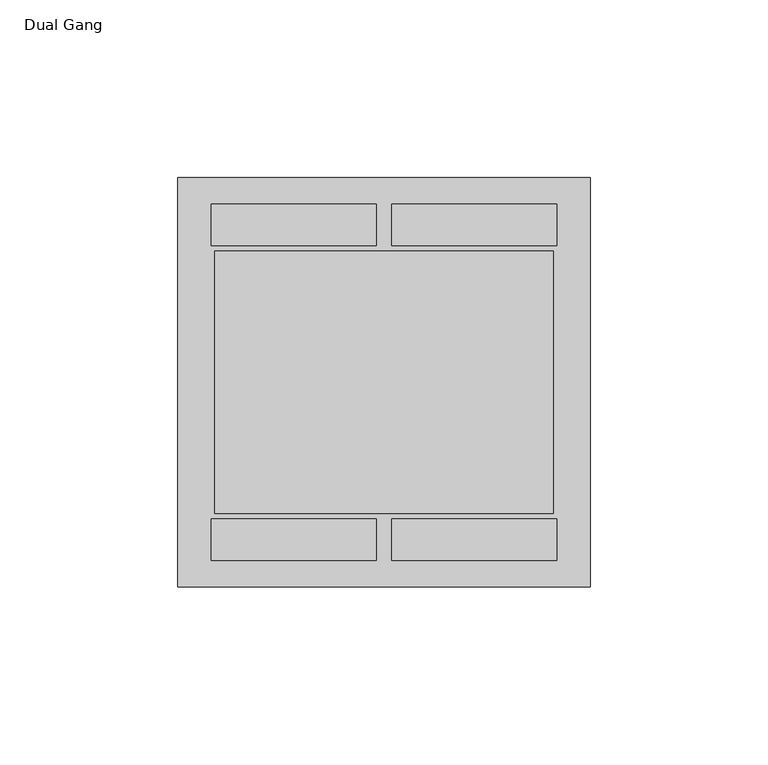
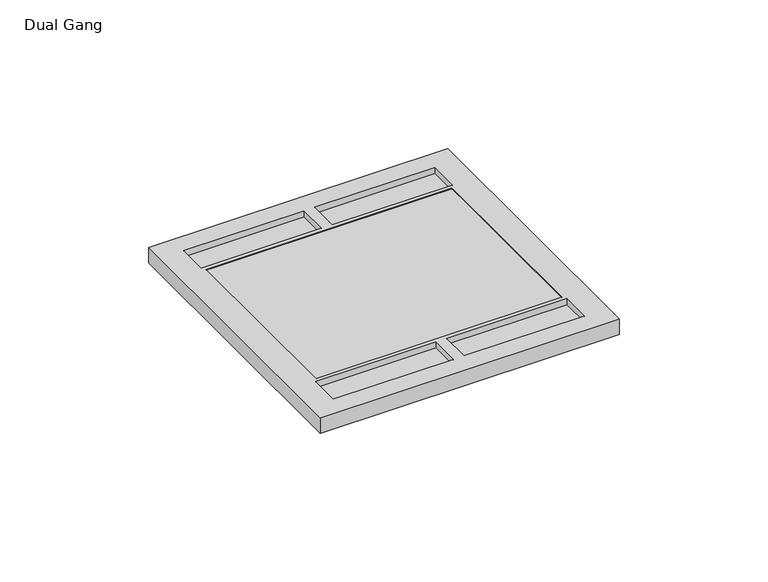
"""IFC4 building model written with IfcOpenShell, lengths in millimetres: electric appliance geometry, Data_Device-Work_Area-Leviton-MOS-Wallplate : Dual Gang."""

from ifc_helpers import new_model, si_unit, origin, origin_with_axes, place, context, project, spatial, polyline, outline, extrude, faceted_brep, source, transform, mapped, element, save


def dual_gang_9d6b230c(model_context):
    return source(origin(), model_context, "Body", "SolidModel", [
        faceted_brep([(-70.6501, 45.0215, 6.35), (-70.6501, 45.0215, 0.0), (24.5999, 45.0215, 0.0), (24.5999, 45.0215, 6.35), (-70.6501, -28.6385, 6.35), (-70.6501, -28.6385, 0.0), (24.5999, -28.6385, 6.35), (24.5999, -28.6385, 0.0), (25.6032, 58.3565, 3.81), (-20.8788, 58.3565, 3.81), (-20.8788, 46.6725, 3.81), (25.6032, 46.6725, 3.81), (-25.1714, 58.3565, 3.81), (-71.6534, 58.3565, 3.81), (-71.6534, 46.6725, 3.81), (-25.1714, 46.6725, 3.81), (25.6032, -30.2895, 3.81), (-20.8788, -30.2895, 3.81), (-20.8788, -41.9735, 3.81), (25.6032, -41.9735, 3.81), (-25.1714, -30.2895, 3.81), (-71.6534, -30.2895, 3.81), (-71.6534, -41.9735, 3.81), (-25.1714, -41.9735, 3.81), (25.6032, 58.3565, 6.35), (-20.8788, 58.3565, 6.35), (-20.8788, 46.6725, 6.35), (25.6032, 46.6725, 6.35), (-25.1714, 58.3565, 6.35), (-71.6534, 58.3565, 6.35), (-71.6534, 46.6725, 6.35), (-25.1714, 46.6725, 6.35), (25.6032, -30.2895, 6.35), (-20.8788, -30.2895, 6.35), (-20.8788, -41.9735, 6.35), (25.6032, -41.9735, 6.35), (-25.1714, -30.2895, 6.35), (-71.6534, -30.2895, 6.35), (-71.6534, -41.9735, 6.35), (-25.1714, -41.9735, 6.35), (34.925, 65.7225, 6.35), (-80.9752, 65.7225, 6.35), (-80.9752, -49.3395, 6.35), (34.925, -49.3395, 6.35), (34.925, 65.7225, 0.0), (34.925, -49.3395, 0.0), (-80.9752, -49.3395, 0.0), (-80.9752, 65.7225, 0.0)], [[[0, 1, 2, 3]], [[1, 0, 4, 5]], [[5, 4, 6, 7]], [[3, 2, 7, 6]], [[8, 9, 10, 11]], [[12, 13, 14, 15]], [[16, 17, 18, 19]], [[20, 21, 22, 23]], [[9, 8, 24, 25]], [[10, 9, 25, 26]], [[11, 10, 26, 27]], [[8, 11, 27, 24]], [[13, 12, 28, 29]], [[14, 13, 29, 30]], [[15, 14, 30, 31]], [[12, 15, 31, 28]], [[17, 16, 32, 33]], [[18, 17, 33, 34]], [[19, 18, 34, 35]], [[16, 19, 35, 32]], [[21, 20, 36, 37]], [[22, 21, 37, 38]], [[23, 22, 38, 39]], [[20, 23, 39, 36]], [[40, 41, 42, 43], [0, 3, 6, 4], [25, 24, 27, 26], [29, 28, 31, 30], [33, 32, 35, 34], [37, 36, 39, 38]], [[44, 45, 46, 47], [2, 1, 5, 7]], [[41, 40, 44, 47]], [[42, 41, 47, 46]], [[43, 42, 46, 45]], [[40, 43, 45, 44]]]),
        extrude(outline(polyline([(24.5999, 45.0215), (24.5999, -28.6385), (-70.6501, -28.6385), (-70.6501, 45.0215), (24.5999, 45.0215)])), origin_with_axes(), (0.0, 0.0, 1.0), 6.35),
        extrude(outline(polyline([(34.671, 65.7225), (34.671, -49.0855), (-80.7212, -49.0855), (-80.7212, 65.7225), (34.671, 65.7225)])), origin_with_axes(), (0.0, 0.0, 1.0), 0.254),
    ])


if __name__ == "__main__":
    model = new_model("IFC4")
    model_context = context("Model", 3, world=origin())
    ifc_project = project(units=[si_unit("LENGTHUNIT", "METRE", prefix="MILLI")], contexts=[model_context])
    site = spatial("IfcSite", under=ifc_project)
    building = spatial("IfcBuilding", under=site)
    placement = place(None, origin())
    dual_gang_shape = dual_gang_9d6b230c(model_context)
    element("IfcElectricAppliance", 1, ObjectType="Data_Device-Work_Area-Leviton-MOS-Wallplate : Dual Gang", at=placement, inside=building, context=model_context, shape_type="MappedRepresentation", body=[
        mapped(dual_gang_shape, transform((0.0, 0.0, 0.0), x_axis=(1.0, 0.0, 0.0), y_axis=(0.0, 1.0, 0.0), z_axis=(0.0, 0.0, 1.0))),
    ])
    save(model, "model.ifc")
